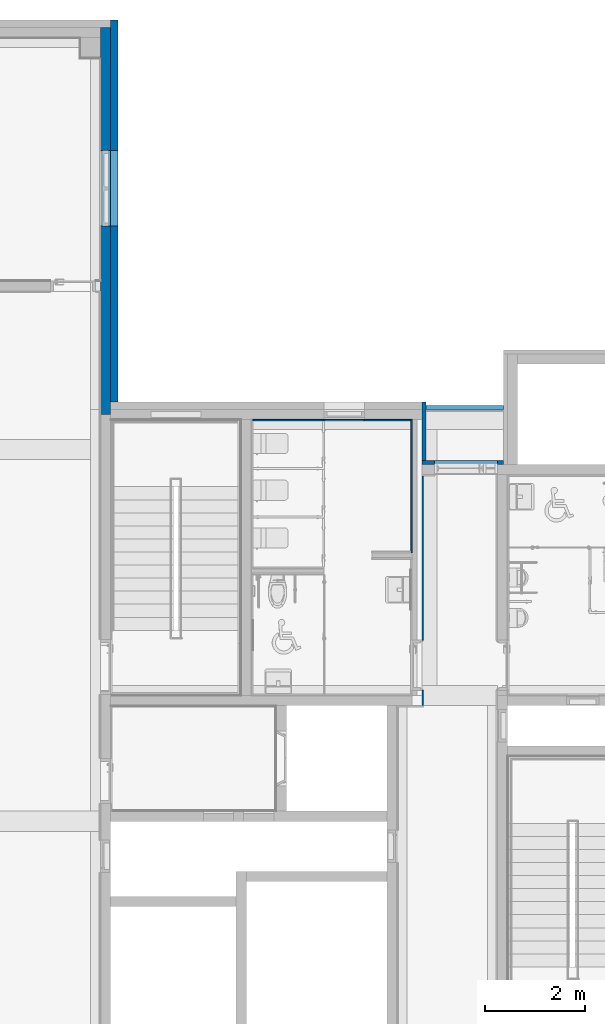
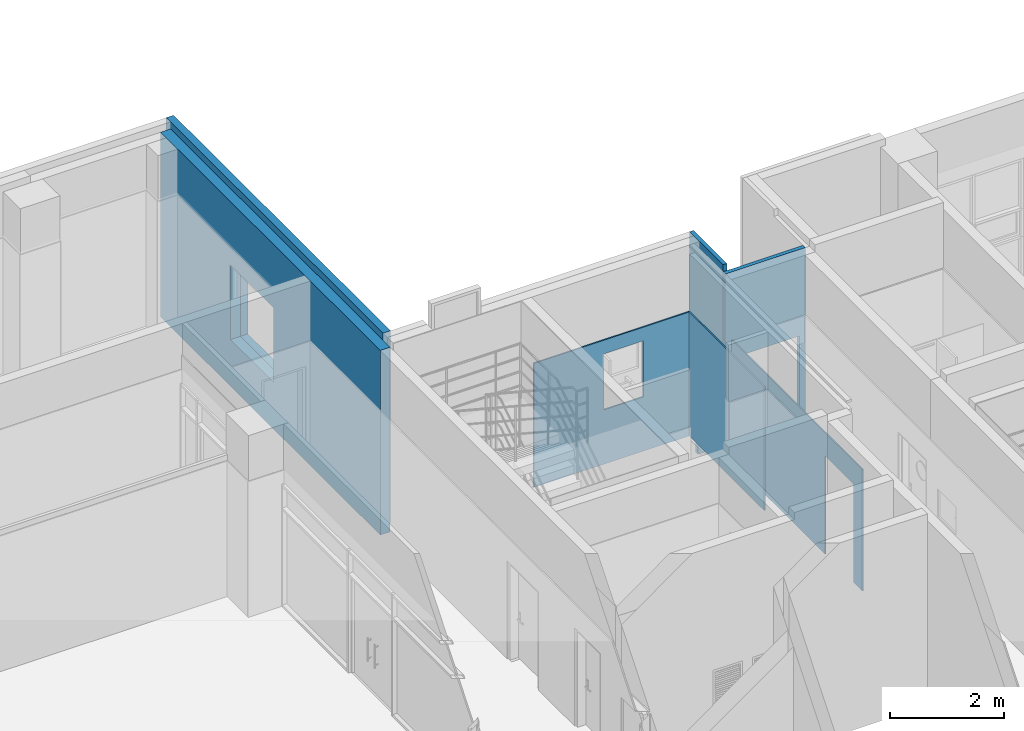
# One storey, part 56 of 76: 8 walls, 5 openings.
"""IFC2X3 building model written with IfcOpenShell, lengths in millimetres."""

from ifc_helpers import new_model, entity, si_unit, converted_unit, derived_unit, direction, frame, frame_2d, origin, place, context, subcontext, project, spatial, polyline, rectangle, extrude, clip, bounded_halfspace, material, layer, layer_set, layer_usage, type_object, element, save


model = new_model("IFC2X3")

# Units and contexts
model_context = context("Model", 3, precision=0.01, world=origin(), true_north=direction((6.123031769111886e-17, 1.0)))
body_context = subcontext(model_context, "Body", "Model", "MODEL_VIEW")
ifc_project = project(units=[si_unit("LENGTHUNIT", "METRE", prefix="MILLI"), si_unit("AREAUNIT", "SQUARE_METRE"), si_unit("VOLUMEUNIT", "CUBIC_METRE"), converted_unit("PLANEANGLEUNIT", "DEGREE", entity("IfcRatioMeasure", 0.017453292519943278), si_unit("PLANEANGLEUNIT", "RADIAN"), dimensions=[0, 0, 0, 0, 0, 0, 0]), si_unit("MASSUNIT", "GRAM", prefix="KILO"), derived_unit("MASSDENSITYUNIT", [(si_unit("MASSUNIT", "GRAM", prefix="KILO"), 1), (si_unit("LENGTHUNIT", "METRE"), -3)]), derived_unit("MOMENTOFINERTIAUNIT", [(si_unit("LENGTHUNIT", "METRE"), 4)]), si_unit("TIMEUNIT", "SECOND"), si_unit("FREQUENCYUNIT", "HERTZ"), si_unit("THERMODYNAMICTEMPERATUREUNIT", "DEGREE_CELSIUS"), derived_unit("THERMALTRANSMITTANCEUNIT", [(si_unit("MASSUNIT", "GRAM", prefix="KILO"), 1), (si_unit("THERMODYNAMICTEMPERATUREUNIT", "KELVIN"), -1), (si_unit("TIMEUNIT", "SECOND"), -3)]), derived_unit("VOLUMETRICFLOWRATEUNIT", [(si_unit("LENGTHUNIT", "METRE"), 3), (si_unit("TIMEUNIT", "SECOND"), -1)]), derived_unit("MASSFLOWRATEUNIT", [(si_unit("MASSUNIT", "GRAM", prefix="KILO"), 1), (si_unit("TIMEUNIT", "SECOND"), -1)]), derived_unit("ROTATIONALFREQUENCYUNIT", [(si_unit("TIMEUNIT", "SECOND"), -1)]), si_unit("ELECTRICCURRENTUNIT", "AMPERE"), si_unit("ELECTRICVOLTAGEUNIT", "VOLT"), si_unit("POWERUNIT", "WATT"), si_unit("FORCEUNIT", "NEWTON", prefix="KILO"), si_unit("ILLUMINANCEUNIT", "LUX"), si_unit("LUMINOUSFLUXUNIT", "LUMEN"), si_unit("LUMINOUSINTENSITYUNIT", "CANDELA"), derived_unit("USERDEFINED", [(si_unit("MASSUNIT", "GRAM", prefix="KILO"), -1), (si_unit("LENGTHUNIT", "METRE"), -2), (si_unit("TIMEUNIT", "SECOND"), 3), (si_unit("LUMINOUSFLUXUNIT", "LUMEN"), 1)]), derived_unit("SOUNDPOWERUNIT", [(si_unit("MASSUNIT", "GRAM", prefix="KILO"), 1), (si_unit("LENGTHUNIT", "METRE"), 2), (si_unit("TIMEUNIT", "SECOND"), -3)]), derived_unit("SOUNDPRESSUREUNIT", [(si_unit("MASSUNIT", "GRAM", prefix="KILO"), 1), (si_unit("LENGTHUNIT", "METRE"), -1), (si_unit("TIMEUNIT", "SECOND"), -2)]), derived_unit("LINEARVELOCITYUNIT", [(si_unit("LENGTHUNIT", "METRE"), 1), (si_unit("TIMEUNIT", "SECOND"), -1)]), si_unit("PRESSUREUNIT", "PASCAL"), derived_unit("USERDEFINED", [(si_unit("LENGTHUNIT", "METRE"), -2), (si_unit("MASSUNIT", "GRAM", prefix="KILO"), 1), (si_unit("TIMEUNIT", "SECOND"), -2)]), derived_unit("LINEARFORCEUNIT", [(si_unit("MASSUNIT", "GRAM", prefix="KILO"), 1), (si_unit("LENGTHUNIT", "METRE"), 1), (si_unit("TIMEUNIT", "SECOND"), -2), (si_unit("LENGTHUNIT", "METRE"), -1)]), derived_unit("PLANARFORCEUNIT", [(si_unit("MASSUNIT", "GRAM", prefix="KILO"), 1), (si_unit("LENGTHUNIT", "METRE"), 1), (si_unit("TIMEUNIT", "SECOND"), -2), (si_unit("LENGTHUNIT", "METRE"), -2)])], contexts=[model_context])

# Site, building, storey
site_placement = place(None, frame((-14167.972527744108, -657.2125860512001, 0.0)))
site = spatial("IfcSite", under=ifc_project, at=site_placement, Name="Default", CompositionType="ELEMENT")
building_placement = place(site_placement, origin())
building = spatial("IfcBuilding", under=site, at=building_placement, Name="Sample Building", CompositionType="ELEMENT")
storey_placement = place(building_placement, frame((0.0, 0.0, 9300.0)))
storey = spatial("IfcBuildingStorey", under=building, at=storey_placement, Name="지상 3층", CompositionType="ELEMENT", Elevation=9300.000000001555)

# Wall, opening
ifc_material_1 = material(Name="KBIMS-콘크리트")
ifc_layer_1 = layer(ifc_material_1, 200.0)
ifc_layer_set_1 = layer_set([ifc_layer_1], Name="기본 벽:WA111-철근콘크리트구조 벽 200mm_W1")
ifc_layer_usage_1 = layer_usage(ifc_layer_set_1, "AXIS2", "NEGATIVE", 100.0)
wall_type_1 = type_object("IfcWallType", Name="기본 벽:WA111-철근콘크리트구조 벽 200mm_W1", PredefinedType="STANDARD", material=ifc_layer_set_1)
wall_1_placement = place(storey_placement, frame((30167.96376153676, 28057.212307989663, -2.297844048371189e-09), z_axis=(0.0, 0.0, 1.0), x_axis=(0.0, 1.0, 0.0)))
wall_1 = element("IfcWallStandardCase", 1, at=wall_1_placement, inside=storey, type_object=wall_type_1, material=ifc_layer_usage_1, Name="기본 벽:WA111-철근콘크리트구조 벽 200mm_W1", ObjectType="기본 벽:WA111-철근콘크리트구조 벽 200mm_W1", context=body_context, shape_type="Clipping", body=[
    clip(extrude(rectangle(XDim=7699.999987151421, YDim=200.00000000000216, at=frame_2d((3849.9999935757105, -2.1671553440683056e-12), x_axis=(-1.0, 0.0))), origin(), (0.0, 0.0, 1.0), 3950.0000000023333), bounded_halfspace(frame((0.0, -100.0, 3950.0), z_axis=(0.0, 0.0, -1.0), x_axis=(0.0, -1.0, 0.0)), True, frame((0.0, -100.0, 3950.0), z_axis=(0.0, 0.0, -1.0), x_axis=(0.0, -1.0, 0.0)), polyline([(0.0, 0.0), (-60960.0, 0.0), (-60960.0, -30480.09028257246), (-60960.0, -2164080.0941984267), (-60960.0, -2286000.0), (-60960.0, -2346960.0), (0.0, -2346960.0), (0.0, 0.0)]))),
])
opening_1_placement = place(wall_1_placement, frame((3749.9999871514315, -100.0, 1000.0)))
element("IfcOpeningElement", 2, at=opening_1_placement, cuts=wall_1, Name="WD842-2단 하부 더블 프로젝트 창(스테인리스 스틸):WD842-2단 하부 더블 프로젝트 창(스테인리스 스틸)_1500x1600mm:1", ObjectType="Opening", context=body_context, shape_type="SweptSolid", body=[
    extrude(rectangle(XDim=1600.0000000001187, YDim=1499.9999999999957, at=frame_2d((800.0000000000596, 749.9999999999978), x_axis=(1.0, 0.0))), frame((0.0, 0.0, 0.0), z_axis=(0.0, 1.0, 0.0), x_axis=(0.0, 0.0, 1.0)), (0.0, 0.0, 1.0), 200.0),
])

# Walls
ifc_material_2 = material(Name="KBIMS-화강석 잔다듬")
ifc_layer_2 = layer(ifc_material_2, 80.0)
ifc_layer_set_2 = layer_set([ifc_layer_2], Name="기본 벽:WA313-화강석잔다듬 벽 (30, 건식50) 80mm")
ifc_layer_usage_2 = layer_usage(ifc_layer_set_2, "AXIS2", "POSITIVE", -40.0)
wall_type_2 = type_object("IfcWallType", Name="기본 벽:WA313-화강석잔다듬 벽 (30, 건식50) 80mm", PredefinedType="STANDARD", material=ifc_layer_set_2)
wall_2_placement = place(storey_placement, frame((36507.963798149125, 27137.212295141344, -2.297844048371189e-09), z_axis=(0.0, 0.0, 1.0), x_axis=(0.0, 1.0, 0.0)))
element("IfcWallStandardCase", 3, at=wall_2_placement, inside=storey, type_object=wall_type_2, material=ifc_layer_usage_2, Name="기본 벽:WA313-화강석잔다듬 벽 (30, 건식50) 80mm", ObjectType="기본 벽:WA313-화강석잔다듬 벽 (30, 건식50) 80mm", context=body_context, shape_type="SweptSolid", body=[
    extrude(rectangle(XDim=1170.0000128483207, YDim=79.99999999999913, at=frame_2d((585.0000064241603, 0.0), x_axis=(-1.0, 0.0))), origin(), (0.0, 0.0, 1.0), 4100.000000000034),
])
ifc_layer_usage_3 = layer_usage(ifc_layer_set_2, "AXIS2", "NEGATIVE", 40.0)
wall_3_placement = place(storey_placement, frame((38087.97249112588, 28197.21230798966, -600.0), z_axis=(0.0, 0.0, 1.0), x_axis=(-1.0, 0.0, 0.0)))
element("IfcWallStandardCase", 4, at=wall_3_placement, inside=storey, type_object=wall_type_2, material=ifc_layer_usage_3, Name="기본 벽:WA313-화강석잔다듬 벽 (30, 건식50) 80mm", ObjectType="기본 벽:WA313-화강석잔다듬 벽 (30, 건식50) 80mm", context=body_context, shape_type="SweptSolid", body=[
    extrude(rectangle(XDim=1540.008692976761, YDim=79.99999999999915, at=frame_2d((770.0043464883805, -1.765698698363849e-12), x_axis=(-1.0, 0.0))), origin(), (0.0, 0.0, 1.0), 600.0000000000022),
])

# Wall, opening
ifc_layer_usage_4 = layer_usage(ifc_layer_set_2, "AXIS2", "POSITIVE", -40.0)
wall_4_placement = place(storey_placement, frame((38087.972491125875, 27097.21229514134, -2.297844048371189e-09), z_axis=(0.0, 0.0, 1.0), x_axis=(-1.0, 0.0, 0.0)))
wall_4 = element("IfcWallStandardCase", 5, at=wall_4_placement, inside=storey, type_object=wall_type_2, material=ifc_layer_usage_4, Name="기본 벽:WA313-화강석잔다듬 벽 (30, 건식50) 80mm", ObjectType="기본 벽:WA313-화강석잔다듬 벽 (30, 건식50) 80mm", context=body_context, shape_type="Clipping", body=[
    clip(extrude(rectangle(XDim=1620.0086929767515, YDim=79.99999999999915, at=frame_2d((810.0043464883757, 3.836930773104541e-13), x_axis=(-1.0, 0.0))), origin(), (0.0, 0.0, 1.0), 3950.0000000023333), bounded_halfspace(frame((0.0, -40.0, 3950.0), z_axis=(0.0, 0.0, -1.0), x_axis=(-1.0, 0.0, 0.0)), True, frame((0.0, -40.0, 3950.0), z_axis=(0.0, 0.0, -1.0), x_axis=(-1.0, 0.0, 0.0)), polyline([(0.0, 0.0), (0.0, 24384.0), (-493778.649619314, 24384.0), (-493778.64961931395, -1.5549971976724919e-09), (0.0, 0.0)]))),
])
opening_2_placement = place(wall_4_placement, origin())
element("IfcOpeningElement", 6, at=opening_2_placement, cuts=wall_4, Name="기본 벽:WA313-화강석잔다듬 벽 (30, 건식50) 80mm", ObjectType="Opening", context=body_context, shape_type="SweptSolid", body=[
    extrude(rectangle(XDim=2020.000000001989, YDim=1250.0000000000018, at=frame_2d((4.376943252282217e-12, -5.115907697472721e-13), x_axis=(0.0, 1.0))), frame((745.0086929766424, -192.39999999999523, 1090.0), z_axis=(0.0, 1.0, 0.0), x_axis=(-1.0, 0.0, 0.0)), (0.0, 0.0, 1.0), 384.79999999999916),
])

ifc_material_3 = material(Name="WA240-ALC블록벽")
ifc_layer_3 = layer(ifc_material_3, 35.0)
ifc_material_4 = material(Name="WA795-(STEEL)BRACKET")
ifc_layer_4 = layer(ifc_material_4, 65.0)
ifc_material_5 = material(Name="WA821-압출스티로폼 벽 (본드붙임, 비중0.03) 50mm")
ifc_layer_5 = layer(ifc_material_5, 50.0)
ifc_layer_set_3 = layer_set([ifc_layer_3, ifc_layer_4, ifc_layer_5], Name="기본 벽:A2-22-02A-압출스티로폼, BRACKET(STEEL), ALC블록 (150mm)")
ifc_layer_usage_5 = layer_usage(ifc_layer_set_3, "AXIS2", "POSITIVE", -75.0)
wall_type_3 = type_object("IfcWallType", Name="기본 벽:A2-22-02A-압출스티로폼, BRACKET(STEEL), ALC블록 (150mm)", PredefinedType="STANDARD", material=ifc_layer_set_3)
wall_5_placement = place(storey_placement, frame((30342.963761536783, 28307.212307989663, -2.297844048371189e-09), z_axis=(0.0, 0.0, 1.0), x_axis=(0.0, 1.0, 0.0)))
wall_5 = element("IfcWallStandardCase", 7, at=wall_5_placement, inside=storey, type_object=wall_type_3, material=ifc_layer_usage_5, Name="기본 벽:A2-22-02A-압출스티로폼, BRACKET(STEEL), ALC블록 (150mm)", ObjectType="기본 벽:A2-22-02A-압출스티로폼, BRACKET(STEEL), ALC블록 (150mm)", context=body_context, shape_type="SweptSolid", body=[
    extrude(rectangle(XDim=7599.999987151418, YDim=150.00000000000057, at=frame_2d((3799.999993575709, -1.4921397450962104e-13), x_axis=(-1.0, 0.0))), origin(), (0.0, 0.0, 1.0), 4100.000000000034),
])
opening_3_placement = place(wall_5_placement, origin())
element("IfcOpeningElement", 8, at=opening_3_placement, cuts=wall_5, Name="기본 벽:A2-22-02A-압출스티로폼, BRACKET(STEEL), ALC블록 (150mm)", ObjectType="Opening", context=body_context, shape_type="SweptSolid", body=[
    extrude(rectangle(XDim=1600.0000000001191, YDim=1499.9999999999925, at=frame_2d((2.1600499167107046e-12, -1.0800249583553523e-12), x_axis=(0.0, 1.0))), frame((4249.99998715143, -1449.0, 1800.0), z_axis=(0.0, 1.0, 0.0), x_axis=(-1.0, 0.0, 0.0)), (0.0, 0.0, 1.0), 3048.0),
])

ifc_material_6 = material(Name="WA611-수성페인트 (내부) 벽 (3회)")
ifc_layer_6 = layer(ifc_material_6, 1.0)
ifc_material_7 = material(Name="WA551-시멘트모르타르 (내부) 벽 24mm")
ifc_layer_7 = layer(ifc_material_7, 21.0)
ifc_material_8 = material(Name="WA961-바닥방수 연장")
ifc_layer_8 = layer(ifc_material_8, 1.0)
ifc_material_9 = material(Name="WA555-콘크리트면정리 벽 (내부)")
ifc_layer_9 = layer(ifc_material_9, 1.0)
ifc_layer_set_4 = layer_set([ifc_layer_6, ifc_layer_7, ifc_layer_8, ifc_layer_9], Name="기본 벽:A1-32-07A-콘크리트면정리, 바닥방수연장, 시멘트모르타르(미장용), 수성페인트(내부) (24mm)")
ifc_layer_usage_6 = layer_usage(ifc_layer_set_4, "AXIS2", "NEGATIVE", 12.000000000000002)
wall_type_4 = type_object("IfcWallType", Name="기본 벽:A1-32-07A-콘크리트면정리, 바닥방수연장, 시멘트모르타르(미장용), 수성페인트(내부) (24mm)", PredefinedType="STANDARD", material=ifc_layer_set_4)
wall_6_placement = place(storey_placement, frame((36479.9638165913, 26833.212295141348, 80.0), z_axis=(0.0, 0.0, 1.0), x_axis=(0.0, -1.0, 0.0)))
wall_6 = element("IfcWallStandardCase", 9, at=wall_6_placement, inside=storey, type_object=wall_type_4, material=ifc_layer_usage_6, Name="기본 벽:A1-32-07A-콘크리트면정리, 바닥방수연장, 시멘트모르타르(미장용), 수성페인트(내부) (24mm)", ObjectType="기본 벽:A1-32-07A-콘크리트면정리, 바닥방수연장, 시멘트모르타르(미장용), 수성페인트(내부) (24mm)", context=body_context, shape_type="SweptSolid", body=[
    extrude(rectangle(XDim=4575.999983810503, YDim=23.999999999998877, at=frame_2d((2287.9999919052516, 2.1609380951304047e-12), x_axis=(1.0, 0.0))), origin(), (0.0, 0.0, 1.0), 2600.0000000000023),
])
opening_4_placement = place(wall_6_placement, origin())
element("IfcOpeningElement", 10, at=opening_4_placement, cuts=wall_6, Name="기본 벽:A1-32-07A-콘크리트면정리, 바닥방수연장, 시멘트모르타르(미장용), 수성페인트(내부) (24mm)", ObjectType="Opening", context=body_context, shape_type="SweptSolid", body=[
    extrude(rectangle(XDim=2099.9999999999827, YDim=999.999999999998, at=frame_2d((0.0, -5.684341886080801e-13), x_axis=(0.0, 1.0))), frame((3769.5394770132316, -1536.0000184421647, 1050.0), z_axis=(0.0, 1.0, 0.0), x_axis=(-1.0, 0.0, 0.0)), (0.0, 0.0, 1.0), 3048.0),
])

ifc_material_10 = material(Name="WA352-도기질타일 벽 200x200")
ifc_layer_10 = layer(ifc_material_10, 8.0)
ifc_material_11 = material(Name="WA551-시멘트모르타르 (내부) 벽 22mm")
ifc_layer_11 = layer(ifc_material_11, 22.0)
ifc_layer_set_5 = layer_set([ifc_layer_10, ifc_layer_11], Name="기본 벽:A1-33-01B-시멘트 모르타르, 도기질타일 (30mm)")
ifc_layer_usage_7 = layer_usage(ifc_layer_set_5, "AXIS2", "POSITIVE", -15.0)
wall_type_5 = type_object("IfcWallType", Name="기본 벽:A1-33-01B-시멘트 모르타르, 도기질타일 (30mm)", PredefinedType="STANDARD", material=ifc_layer_set_5)
wall_7_placement = place(storey_placement, frame((36237.96379815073, 27942.212307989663, 40.0), z_axis=(0.0, 0.0, 1.0), x_axis=(-1.0, 0.0, 0.0)))
wall_7 = element("IfcWallStandardCase", 11, at=wall_7_placement, inside=storey, type_object=wall_type_5, material=ifc_layer_usage_7, Name="기본 벽:A1-33-01B-시멘트 모르타르, 도기질타일 (30mm)", ObjectType="기본 벽:A1-33-01B-시멘트 모르타르, 도기질타일 (30mm)", context=body_context, shape_type="SweptSolid", body=[
    extrude(rectangle(XDim=3139.982570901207, YDim=30.000000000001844, at=frame_2d((1569.9912854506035, 0.0), x_axis=(-1.0, 0.0))), origin(), (0.0, 0.0, 1.0), 2649.9999999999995),
])
opening_5_placement = place(wall_7_placement, origin())
element("IfcOpeningElement", 12, at=opening_5_placement, cuts=wall_7, Name="기본 벽:A1-33-01B-시멘트 모르타르, 도기질타일 (30mm)", ObjectType="Opening", context=body_context, shape_type="SweptSolid", body=[
    extrude(rectangle(XDim=1200.0000000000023, YDim=799.9999999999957, at=frame_2d((-1.0800249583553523e-12, -2.1600499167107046e-12), x_axis=(1.0, 0.0))), frame((1319.9913070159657, -1739.0, 1760.0), z_axis=(0.0, 1.0, 0.0), x_axis=(0.0, 0.0, 1.0)), (0.0, 0.0, 1.0), 3048.0),
])

# Wall
ifc_layer_usage_8 = layer_usage(ifc_layer_set_5, "AXIS2", "POSITIVE", -15.0)
wall_8_placement = place(storey_placement, frame((36252.96379815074, 25297.212309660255, 40.0), z_axis=(0.0, 0.0, 1.0), x_axis=(0.0, 1.0, 0.0)))
element("IfcWallStandardCase", 13, at=wall_8_placement, inside=storey, type_object=wall_type_5, material=ifc_layer_usage_8, Name="기본 벽:A1-33-01B-시멘트 모르타르, 도기질타일 (30mm)", ObjectType="기본 벽:A1-33-01B-시멘트 모르타르, 도기질타일 (30mm)", context=body_context, shape_type="SweptSolid", body=[
    extrude(rectangle(XDim=2659.9999983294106, YDim=30.000000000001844, at=frame_2d((1329.9999991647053, 1.0533796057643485e-12), x_axis=(-1.0, 0.0))), origin(), (0.0, 0.0, 1.0), 2649.9999999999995),
])

save(model, "model.ifc")
